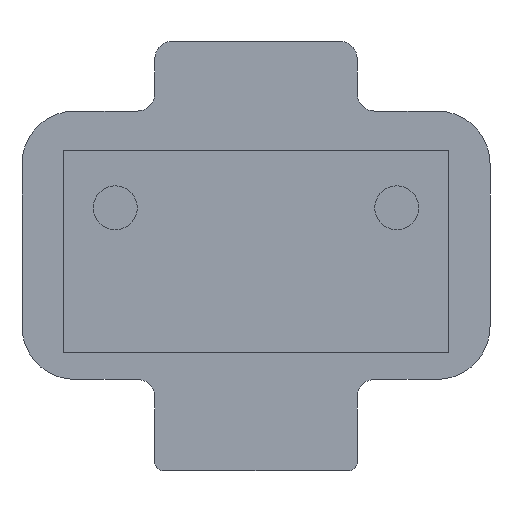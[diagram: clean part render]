
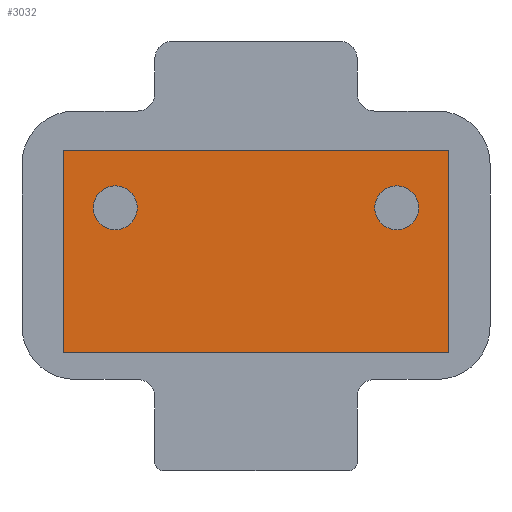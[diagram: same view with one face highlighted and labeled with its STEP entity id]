
A CAD part, front view. The second image highlights one B-rep face of the part: STEP entity #3032.
In plain terms, the highlighted planar face has unit normal (0, -1, 0).
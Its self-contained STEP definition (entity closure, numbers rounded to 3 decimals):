
#148 = DIRECTION ( 'NONE',  ( 0., 0., 1. ) ) ;
#176 = EDGE_CURVE ( 'NONE', #10824, #13815, #10104, .T. ) ;
#598 = CARTESIAN_POINT ( 'NONE',  ( -5.234, 22.57, 1.1 ) ) ;
#835 = LINE ( 'NONE', #2308, #14161 ) ;
#1018 = CARTESIAN_POINT ( 'NONE',  ( 38.566, 22.57, 22.023 ) ) ;
#1138 = DIRECTION ( 'NONE',  ( 0., 0., 1. ) ) ;
#1170 = DIRECTION ( 'NONE',  ( 1., 0., 0. ) ) ;
#1180 = AXIS2_PLACEMENT_3D ( 'NONE', #3034, #11645, #4299 ) ;
#1395 = FACE_BOUND ( 'NONE', #7476, .T. ) ;
#1592 = VERTEX_POINT ( 'NONE', #13521 ) ;
#2308 = CARTESIAN_POINT ( 'NONE',  ( 39.166, 22.57, -0.97 ) ) ;
#2364 = EDGE_CURVE ( 'NONE', #14298, #13815, #3130, .T. ) ;
#2403 = DIRECTION ( 'NONE',  ( 0., 1., 0. ) ) ;
#2951 = CIRCLE ( 'NONE', #13447, 2.5 ) ;
#3032 = ADVANCED_FACE ( 'NONE', ( #8506, #11874, #1395 ), #6155, .F. ) ;
#3034 = CARTESIAN_POINT ( 'NONE',  ( 0.666, 22.57, 15.528 ) ) ;
#3130 = LINE ( 'NONE', #3855, #15299 ) ;
#3379 = ORIENTED_EDGE ( 'NONE', *, *, #11427, .F. ) ;
#3539 = ORIENTED_EDGE ( 'NONE', *, *, #176, .F. ) ;
#3855 = CARTESIAN_POINT ( 'NONE',  ( 38.566, 22.57, 32.8 ) ) ;
#4299 = DIRECTION ( 'NONE',  ( 0., 0., 1. ) ) ;
#4831 = EDGE_CURVE ( 'NONE', #10137, #1592, #6666, .T. ) ;
#4945 = CARTESIAN_POINT ( 'NONE',  ( 32.666, 22.57, 15.528 ) ) ;
#6155 = PLANE ( 'NONE',  #13354 ) ;
#6413 = CARTESIAN_POINT ( 'NONE',  ( 38.566, 22.57, -0.97 ) ) ;
#6666 = CIRCLE ( 'NONE', #1180, 2.5 ) ;
#6813 = VECTOR ( 'NONE', #14858, 1000. ) ;
#6838 = DIRECTION ( 'NONE',  ( -1., 0., 0. ) ) ;
#6931 = ORIENTED_EDGE ( 'NONE', *, *, #13404, .F. ) ;
#7050 = ORIENTED_EDGE ( 'NONE', *, *, #12090, .F. ) ;
#7476 = EDGE_LOOP ( 'NONE', ( #7050, #3379 ) ) ;
#7608 = VERTEX_POINT ( 'NONE', #9277 ) ;
#7907 = DIRECTION ( 'NONE',  ( 0., 0., 1. ) ) ;
#8018 = VERTEX_POINT ( 'NONE', #8310 ) ;
#8310 = CARTESIAN_POINT ( 'NONE',  ( 32.666, 22.57, 18.028 ) ) ;
#8506 = FACE_OUTER_BOUND ( 'NONE', #14089, .T. ) ;
#8978 = EDGE_CURVE ( 'NONE', #14298, #14429, #835, .T. ) ;
#8989 = AXIS2_PLACEMENT_3D ( 'NONE', #10857, #9382, #148 ) ;
#9050 = ORIENTED_EDGE ( 'NONE', *, *, #8978, .F. ) ;
#9277 = CARTESIAN_POINT ( 'NONE',  ( 32.666, 22.57, 13.028 ) ) ;
#9382 = DIRECTION ( 'NONE',  ( 0., -1., 0. ) ) ;
#9783 = VECTOR ( 'NONE', #13792, 1000. ) ;
#10104 = LINE ( 'NONE', #14941, #6813 ) ;
#10137 = VERTEX_POINT ( 'NONE', #10445 ) ;
#10445 = CARTESIAN_POINT ( 'NONE',  ( 0.666, 22.57, 18.028 ) ) ;
#10457 = CIRCLE ( 'NONE', #11454, 2.5 ) ;
#10545 = CARTESIAN_POINT ( 'NONE',  ( -5.234, 22.57, 22.023 ) ) ;
#10718 = EDGE_LOOP ( 'NONE', ( #6931, #11841 ) ) ;
#10824 = VERTEX_POINT ( 'NONE', #10545 ) ;
#10857 = CARTESIAN_POINT ( 'NONE',  ( 0.666, 22.57, 15.528 ) ) ;
#10889 = DIRECTION ( 'NONE',  ( 0., -1., 0. ) ) ;
#11379 = LINE ( 'NONE', #598, #9783 ) ;
#11427 = EDGE_CURVE ( 'NONE', #8018, #7608, #10457, .T. ) ;
#11454 = AXIS2_PLACEMENT_3D ( 'NONE', #4945, #10889, #1138 ) ;
#11645 = DIRECTION ( 'NONE',  ( 0., -1., 0. ) ) ;
#11841 = ORIENTED_EDGE ( 'NONE', *, *, #4831, .F. ) ;
#11874 = FACE_BOUND ( 'NONE', #10718, .T. ) ;
#12087 = DIRECTION ( 'NONE',  ( 0., -1., 0. ) ) ;
#12090 = EDGE_CURVE ( 'NONE', #7608, #8018, #2951, .T. ) ;
#12991 = CIRCLE ( 'NONE', #8989, 2.5 ) ;
#13120 = CARTESIAN_POINT ( 'NONE',  ( 1.22, 22.57, 15.295 ) ) ;
#13354 = AXIS2_PLACEMENT_3D ( 'NONE', #13120, #2403, #1170 ) ;
#13403 = DIRECTION ( 'NONE',  ( 0., 0., 1. ) ) ;
#13404 = EDGE_CURVE ( 'NONE', #1592, #10137, #12991, .T. ) ;
#13447 = AXIS2_PLACEMENT_3D ( 'NONE', #14068, #12087, #13403 ) ;
#13521 = CARTESIAN_POINT ( 'NONE',  ( 0.666, 22.57, 13.028 ) ) ;
#13710 = ORIENTED_EDGE ( 'NONE', *, *, #2364, .T. ) ;
#13792 = DIRECTION ( 'NONE',  ( 0., 0., 1. ) ) ;
#13815 = VERTEX_POINT ( 'NONE', #1018 ) ;
#14068 = CARTESIAN_POINT ( 'NONE',  ( 32.666, 22.57, 15.528 ) ) ;
#14089 = EDGE_LOOP ( 'NONE', ( #3539, #14145, #9050, #13710 ) ) ;
#14145 = ORIENTED_EDGE ( 'NONE', *, *, #14883, .F. ) ;
#14161 = VECTOR ( 'NONE', #6838, 1000. ) ;
#14298 = VERTEX_POINT ( 'NONE', #6413 ) ;
#14429 = VERTEX_POINT ( 'NONE', #14668 ) ;
#14668 = CARTESIAN_POINT ( 'NONE',  ( -5.234, 22.57, -0.97 ) ) ;
#14858 = DIRECTION ( 'NONE',  ( 1., 0., 0. ) ) ;
#14883 = EDGE_CURVE ( 'NONE', #14429, #10824, #11379, .T. ) ;
#14941 = CARTESIAN_POINT ( 'NONE',  ( -5.234, 22.57, 22.023 ) ) ;
#15299 = VECTOR ( 'NONE', #7907, 1000. ) ;
